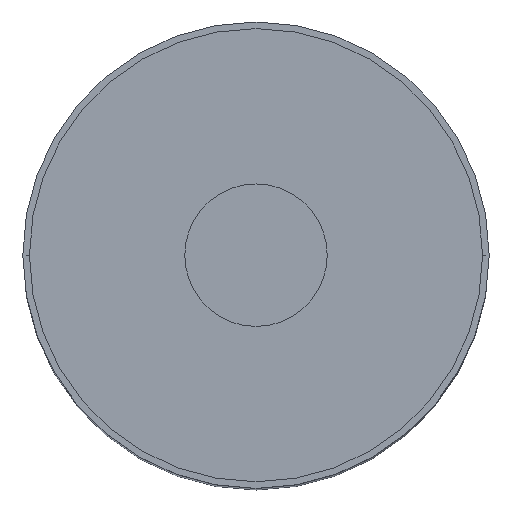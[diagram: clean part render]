
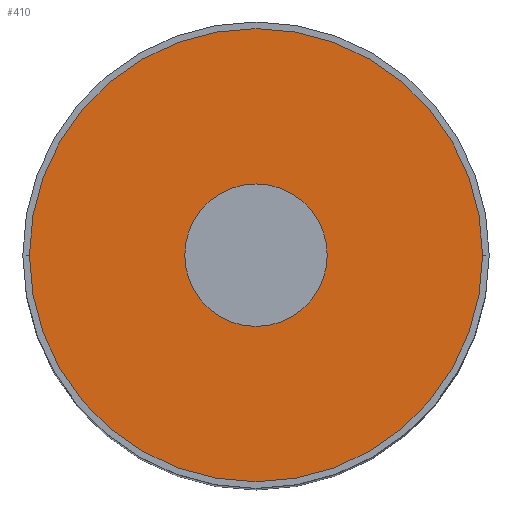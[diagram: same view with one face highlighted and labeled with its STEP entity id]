
A CAD part, top view. The second image highlights one B-rep face of the part: STEP entity #410.
In plain terms, the highlighted planar face has unit normal (0, 0, 1).
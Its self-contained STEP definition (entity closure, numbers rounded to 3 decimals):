
#25 = DIRECTION ( 'NONE',  ( 0., 0., -1. ) ) ;
#44 = DIRECTION ( 'NONE',  ( 0., 0., -1. ) ) ;
#59 = CARTESIAN_POINT ( 'NONE',  ( 0., 0., 80.075 ) ) ;
#78 = ORIENTED_EDGE ( 'NONE', *, *, #659, .T. ) ;
#81 = CARTESIAN_POINT ( 'NONE',  ( 17.488, 0., 80.075 ) ) ;
#83 = DIRECTION ( 'NONE',  ( 0., 0., -1. ) ) ;
#84 = FACE_BOUND ( 'NONE', #743, .T. ) ;
#125 = CARTESIAN_POINT ( 'NONE',  ( -17.488, 0., 80.075 ) ) ;
#218 = DIRECTION ( 'NONE',  ( -1., 0., 0. ) ) ;
#220 = DIRECTION ( 'NONE',  ( 0., 0., -1. ) ) ;
#221 = CARTESIAN_POINT ( 'NONE',  ( 0., 5.5, 80.075 ) ) ;
#242 = PLANE ( 'NONE',  #768 ) ;
#293 = DIRECTION ( 'NONE',  ( -1., 0., 0. ) ) ;
#294 = CARTESIAN_POINT ( 'NONE',  ( 0., 0., 80.075 ) ) ;
#295 = ORIENTED_EDGE ( 'NONE', *, *, #323, .F. ) ;
#296 = CIRCLE ( 'NONE', #662, 5.5 ) ;
#302 = DIRECTION ( 'NONE',  ( 0., 0., -1. ) ) ;
#303 = CARTESIAN_POINT ( 'NONE',  ( 0., 0., 80.075 ) ) ;
#314 = CARTESIAN_POINT ( 'NONE',  ( -5.5, 0., 80.075 ) ) ;
#323 = EDGE_CURVE ( 'NONE', #483, #519, #418, .T. ) ;
#328 = EDGE_LOOP ( 'NONE', ( #295, #469 ) ) ;
#343 = VERTEX_POINT ( 'NONE', #314 ) ;
#382 = ORIENTED_EDGE ( 'NONE', *, *, #799, .T. ) ;
#392 = DIRECTION ( 'NONE',  ( -1., 0., 0. ) ) ;
#396 = FACE_OUTER_BOUND ( 'NONE', #328, .T. ) ;
#410 = ADVANCED_FACE ( 'NONE', ( #396, #84 ), #242, .F. ) ;
#417 = CIRCLE ( 'NONE', #538, 5.5 ) ;
#418 = CIRCLE ( 'NONE', #777, 17.488 ) ;
#438 = DIRECTION ( 'NONE',  ( -1., 0., 0. ) ) ;
#451 = AXIS2_PLACEMENT_3D ( 'NONE', #452, #83, #610 ) ;
#452 = CARTESIAN_POINT ( 'NONE',  ( 0., 0., 80.075 ) ) ;
#469 = ORIENTED_EDGE ( 'NONE', *, *, #669, .F. ) ;
#483 = VERTEX_POINT ( 'NONE', #125 ) ;
#519 = VERTEX_POINT ( 'NONE', #81 ) ;
#538 = AXIS2_PLACEMENT_3D ( 'NONE', #294, #44, #392 ) ;
#610 = DIRECTION ( 'NONE',  ( -1., 0., 0. ) ) ;
#650 = VERTEX_POINT ( 'NONE', #760 ) ;
#659 = EDGE_CURVE ( 'NONE', #343, #650, #417, .T. ) ;
#662 = AXIS2_PLACEMENT_3D ( 'NONE', #59, #25, #438 ) ;
#669 = EDGE_CURVE ( 'NONE', #519, #483, #670, .T. ) ;
#670 = CIRCLE ( 'NONE', #451, 17.488 ) ;
#743 = EDGE_LOOP ( 'NONE', ( #78, #382 ) ) ;
#760 = CARTESIAN_POINT ( 'NONE',  ( 5.5, 0., 80.075 ) ) ;
#768 = AXIS2_PLACEMENT_3D ( 'NONE', #221, #220, #218 ) ;
#777 = AXIS2_PLACEMENT_3D ( 'NONE', #303, #302, #293 ) ;
#799 = EDGE_CURVE ( 'NONE', #650, #343, #296, .T. ) ;
